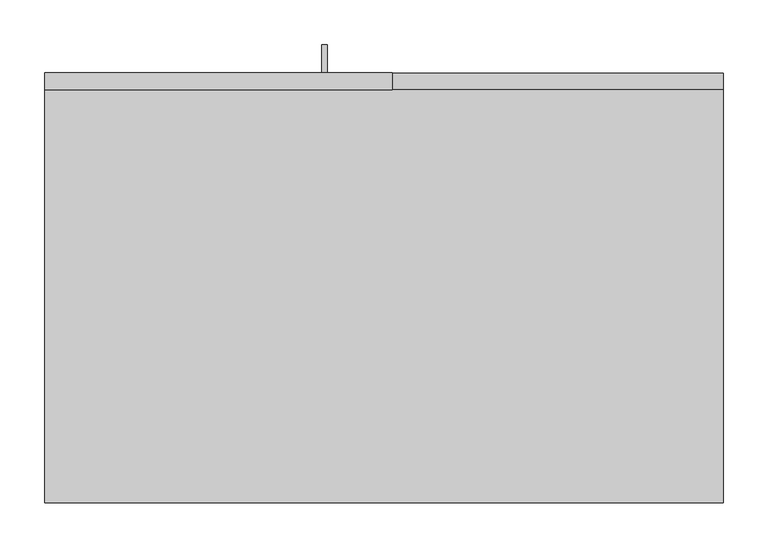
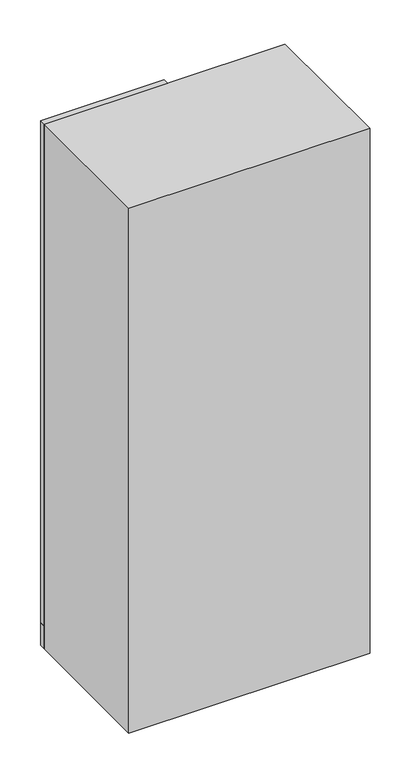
"""IFC4 building model written with IfcOpenShell, lengths in millimetres: furniture geometry, Haworth_Masters_Wardrobe_OpenCabinet : 30w 19d 69h."""

from ifc_helpers import new_model, si_unit, frame, origin, origin_with_axes, place, context, project, spatial, polyline, outline, extrude, faceted_brep, source, transform, mapped, element, save


def furniture_f82028ea(model_context):
    return source(origin(), model_context, "Body", "SolidModel", [
        extrude(outline(polyline([(461.8577087, -145.9650245), (109.4327087, -145.9650245), (109.4327087, 298.5349755), (461.8577087, 298.5349755), (461.8577087, -145.9650245)])), frame((0.0, 0.0, 1439.8625), z_axis=(0.0, 0.0, 1.0), x_axis=(1.0, 0.0, 0.0)), (0.0, 0.0, 1.0), 19.05),
        extrude(outline(polyline([(461.8577087, -145.9650245), (109.4327087, -145.9650245), (109.4327087, 298.5349755), (461.8577087, 298.5349755), (461.8577087, -145.9650245)])), frame((0.0, 0.0, 1165.225), z_axis=(0.0, 0.0, 1.0), x_axis=(1.0, 0.0, 0.0)), (0.0, 0.0, 1.0), 19.05),
        extrude(outline(polyline([(461.8577087, -145.9650245), (109.4327087, -145.9650245), (109.4327087, 298.5349755), (461.8577087, 298.5349755), (461.8577087, -145.9650245)])), frame((0.0, 0.0, 890.5875), z_axis=(0.0, 0.0, 1.0), x_axis=(1.0, 0.0, 0.0)), (0.0, 0.0, 1.0), 19.05),
        extrude(outline(polyline([(461.8577087, -145.9650245), (109.4327087, -145.9650245), (109.4327087, 298.5349755), (461.8577087, 298.5349755), (461.8577087, -145.9650245)])), frame((0.0, 0.0, 341.3125), z_axis=(0.0, 0.0, 1.0), x_axis=(1.0, 0.0, 0.0)), (0.0, 0.0, 1.0), 19.05),
        extrude(outline(polyline([(461.8577087, -145.9650245), (109.4327087, -145.9650245), (109.4327087, 298.5349755), (461.8577087, 298.5349755), (461.8577087, -145.9650245)])), frame((0.0, 0.0, 615.95), z_axis=(0.0, 0.0, 1.0), x_axis=(1.0, 0.0, 0.0)), (0.0, 0.0, 1.0), 19.05),
        extrude(outline(polyline([(317.5849755, 1041.4), (317.5849755, 1066.8), (349.3349634, 1066.8), (349.3349634, 863.6), (317.5849755, 863.6), (317.5849755, 889.0), (342.9849513, 889.0), (342.9849513, 1041.4), (317.5849755, 1041.4)])), frame((30.0577208, 0.0, 0.0), z_axis=(1.0, 0.0, 0.0), x_axis=(0.0, 1.0, 0.0)), (0.0, 0.0, 1.0), 6.3499758),
        extrude(outline(polyline([(109.4327087, 317.5849755), (109.4327087, 298.5349755), (-281.0922913, 298.5349755), (-281.0922913, 317.5849755), (109.4327087, 317.5849755)])), frame((0.0, 0.0, 76.2), z_axis=(0.0, 0.0, 1.0), x_axis=(1.0, 0.0, 0.0)), (0.0, 0.0, 1.0), 1676.4),
        extrude(outline(polyline([(480.9077087, 317.5849755), (480.9077087, 298.5349755), (-281.0922913, 298.5349755), (-281.0922913, 317.5849755), (480.9077087, 317.5849755)])), origin_with_axes(), (0.0, 0.0, 1.0), 76.2),
        faceted_brep([(480.9077087, -165.0150245, 1752.6), (480.9077087, 298.5349755, 1752.6), (-281.0922913, 298.5349755, 1752.6), (-281.0922913, -165.0150245, 1752.6), (480.9077087, 298.5349755, 0.0), (480.9077087, -165.0150245, 0.0), (-281.0922913, -165.0150245, 0.0), (-281.0922913, 298.5349755, 0.0), (461.8577087, -145.9650245, 76.2), (-262.0422913, -145.9650245, 76.2), (-262.0422913, -145.9650245, 1733.55), (461.8577087, -145.9650245, 1733.55), (461.8577087, 298.5349755, 1733.55), (-262.0422913, 298.5349755, 1733.55), (-262.0422913, 298.5349755, 76.2), (461.8577087, 298.5349755, 76.2)], [[[0, 1, 2, 3]], [[4, 5, 6, 7]], [[3, 6, 5, 0]], [[2, 7, 6, 3]], [[8, 9, 10, 11]], [[0, 5, 4, 1]], [[1, 4, 7, 2], [12, 13, 14, 15]], [[15, 8, 11, 12]], [[14, 9, 8, 15]], [[13, 10, 9, 14]], [[12, 11, 10, 13]]]),
        extrude(outline(polyline([(109.4327087, -145.9650245), (90.3827087, -145.9650245), (90.3827087, 298.5349755), (109.4327087, 298.5349755), (109.4327087, -145.9650245)])), frame((0.0, 0.0, 76.2), z_axis=(0.0, 0.0, 1.0), x_axis=(1.0, 0.0, 0.0)), (0.0, 0.0, 1.0), 1657.35),
    ])


if __name__ == "__main__":
    model = new_model("IFC4")
    model_context = context("Model", 3, world=origin())
    ifc_project = project(units=[si_unit("LENGTHUNIT", "METRE", prefix="MILLI")], contexts=[model_context])
    site = spatial("IfcSite", under=ifc_project)
    building = spatial("IfcBuilding", under=site)
    placement = place(None, origin())
    furniture_shape = furniture_f82028ea(model_context)
    element("IfcFurniture", 1, ObjectType="Haworth_Masters_Wardrobe_OpenCabinet : 30w 19d 69h", at=placement, inside=building, context=model_context, shape_type="MappedRepresentation", body=[
        mapped(furniture_shape, transform((0.0, 0.0, 0.0), x_axis=(1.0, 0.0, 0.0), y_axis=(0.0, 1.0, 0.0), z_axis=(0.0, 0.0, 1.0))),
    ])
    save(model, "model.ifc")
